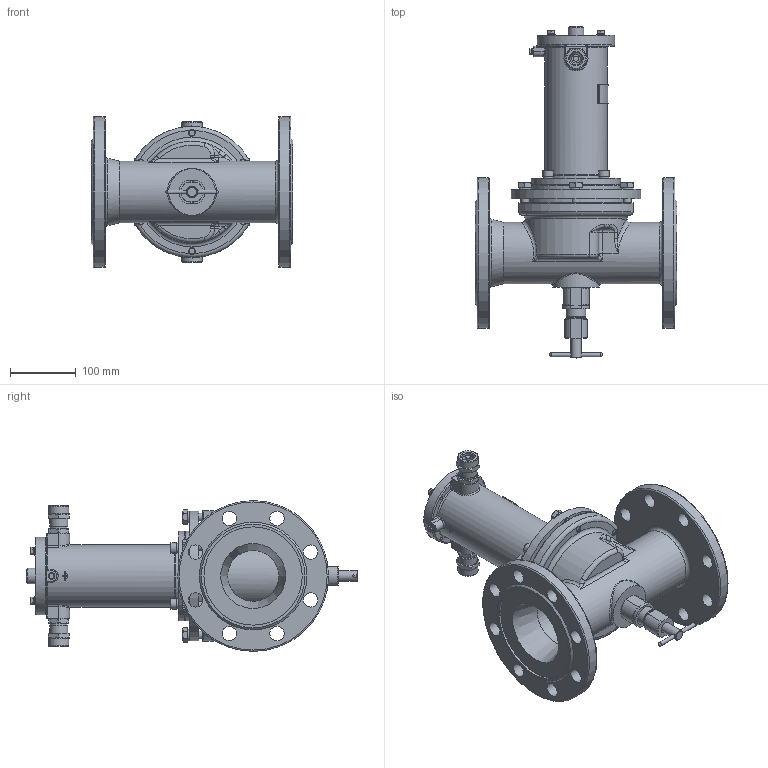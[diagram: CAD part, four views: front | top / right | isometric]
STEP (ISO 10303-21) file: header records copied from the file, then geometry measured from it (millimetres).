
FILE_DESCRIPTION(('STEP AP203'), '1');
FILE_NAME('ÑÅÍÑ DN100PN25-Â-ÍÎ-ÑÂ.stp', '2018-09-19T08:51:29', ('Îðëîâ Å.Â.'), ('ÎÎÎ ÍÏÏ Ñåíñîð'), 'ASCON STEP Converter 1.3', 'Kompas 3D', '');
FILE_SCHEMA(('CONFIG_CONTROL_DESIGN','SUPPORT_RESOURCE_SCHEMA'));
Length unit declared in the file: millimetre
Products named in the file (1): 78
Bounding box: 308 x 506.5 x 230 mm (x, y, z)
Volume: 3842923.1 mm3; surface area: 783363.5 mm2
Topology: 3 solids, 23 shells, 2142 faces, 5662 edges, 3654 vertices
Faces by surface type: cylinder 1044, plane 808, cone 160, bspline 56, torus 50, extrusion 16, sphere 8
Full cylindrical faces by diameter (mm): 3.5 x2, 4.134 x1, 4.917 x7, 5 x1, 6 x9, 6.5 x4, 8 x8, 8.2 x1, 8.376 x4, 10 x5, 10.106 x6, 11 x5, 12 x10, 13 x8, 16 x6, 17 x2, 18 x1, 18.632 x2, 20 x3, 22 x18, 22.376 x2, 23 x1, 23.5 x2, 24 x3, 24.5 x2, 26 x4, 26.376 x2, 27.8 x1, 28 x3, 28.5 x2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
Entity records: 84743 total; most frequent: CARTESIAN_POINT 30738, DIRECTION 11634, ORIENTED_EDGE 11248, EDGE_CURVE 5624, AXIS2_PLACEMENT_3D 4486, VERTEX_POINT 3654, VECTOR 2662, LINE 2646
